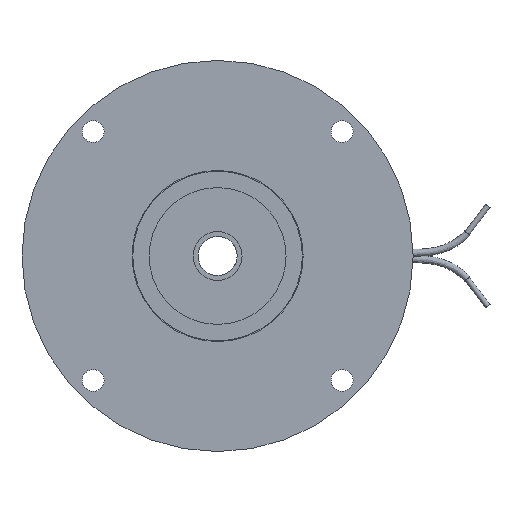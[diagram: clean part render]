
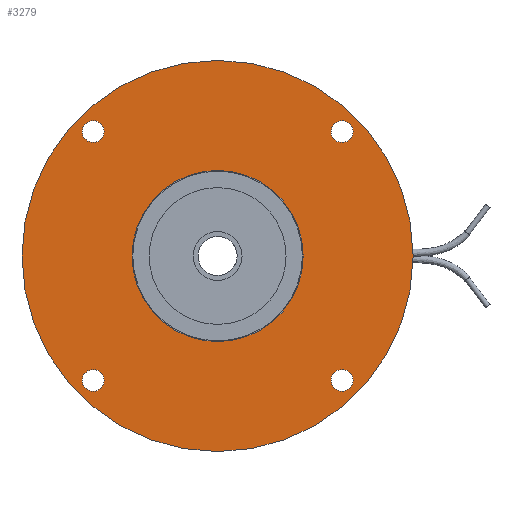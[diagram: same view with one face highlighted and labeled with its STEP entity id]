
A CAD part, left-side view. The second image highlights one B-rep face of the part: STEP entity #3279.
In plain terms, the highlighted planar face has unit normal (-1, 0, 0).
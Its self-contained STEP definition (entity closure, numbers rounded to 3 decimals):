
#456=FACE_BOUND('',#765,.T.);
#457=FACE_BOUND('',#766,.T.);
#458=FACE_BOUND('',#767,.T.);
#459=FACE_BOUND('',#768,.T.);
#460=FACE_BOUND('',#769,.T.);
#564=FACE_OUTER_BOUND('',#764,.T.);
#764=EDGE_LOOP('',(#2346,#2347));
#765=EDGE_LOOP('',(#2348));
#766=EDGE_LOOP('',(#2349));
#767=EDGE_LOOP('',(#2350));
#768=EDGE_LOOP('',(#2351));
#769=EDGE_LOOP('',(#2352,#2353));
#1033=CIRCLE('',#3586,40.);
#1034=CIRCLE('',#3587,40.);
#1035=CIRCLE('',#3588,2.25);
#1036=CIRCLE('',#3589,2.25);
#1037=CIRCLE('',#3590,2.25);
#1038=CIRCLE('',#3591,2.25);
#1039=CIRCLE('',#3592,17.5);
#1040=CIRCLE('',#3593,17.5);
#1339=VERTEX_POINT('',#5483);
#1340=VERTEX_POINT('',#5484);
#1341=VERTEX_POINT('',#5487);
#1342=VERTEX_POINT('',#5489);
#1343=VERTEX_POINT('',#5491);
#1344=VERTEX_POINT('',#5493);
#1345=VERTEX_POINT('',#5495);
#1346=VERTEX_POINT('',#5496);
#1717=EDGE_CURVE('',#1339,#1340,#1033,.T.);
#1718=EDGE_CURVE('',#1340,#1339,#1034,.T.);
#1719=EDGE_CURVE('',#1341,#1341,#1035,.T.);
#1720=EDGE_CURVE('',#1342,#1342,#1036,.T.);
#1721=EDGE_CURVE('',#1343,#1343,#1037,.T.);
#1722=EDGE_CURVE('',#1344,#1344,#1038,.T.);
#1723=EDGE_CURVE('',#1345,#1346,#1039,.T.);
#1724=EDGE_CURVE('',#1346,#1345,#1040,.T.);
#2346=ORIENTED_EDGE('',*,*,#1717,.F.);
#2347=ORIENTED_EDGE('',*,*,#1718,.F.);
#2348=ORIENTED_EDGE('',*,*,#1719,.T.);
#2349=ORIENTED_EDGE('',*,*,#1720,.T.);
#2350=ORIENTED_EDGE('',*,*,#1721,.T.);
#2351=ORIENTED_EDGE('',*,*,#1722,.T.);
#2352=ORIENTED_EDGE('',*,*,#1723,.T.);
#2353=ORIENTED_EDGE('',*,*,#1724,.T.);
#3041=PLANE('',#3585);
#3279=ADVANCED_FACE('',(#564,#456,#457,#458,#459,#460),#3041,.T.);
#3585=AXIS2_PLACEMENT_3D('',#5482,#4274,#4275);
#3586=AXIS2_PLACEMENT_3D('',#5485,#4276,#4277);
#3587=AXIS2_PLACEMENT_3D('',#5486,#4278,#4279);
#3588=AXIS2_PLACEMENT_3D('',#5488,#4280,#4281);
#3589=AXIS2_PLACEMENT_3D('',#5490,#4282,#4283);
#3590=AXIS2_PLACEMENT_3D('',#5492,#4284,#4285);
#3591=AXIS2_PLACEMENT_3D('',#5494,#4286,#4287);
#3592=AXIS2_PLACEMENT_3D('',#5497,#4288,#4289);
#3593=AXIS2_PLACEMENT_3D('',#5498,#4290,#4291);
#4274=DIRECTION('center_axis',(-1.,0.,0.));
#4275=DIRECTION('ref_axis',(0.,0.,1.));
#4276=DIRECTION('center_axis',(1.,0.,0.));
#4277=DIRECTION('ref_axis',(0.,0.,-1.));
#4278=DIRECTION('center_axis',(1.,0.,0.));
#4279=DIRECTION('ref_axis',(0.,0.,-1.));
#4280=DIRECTION('center_axis',(1.,0.,0.));
#4281=DIRECTION('ref_axis',(0.,0.,-1.));
#4282=DIRECTION('center_axis',(1.,0.,0.));
#4283=DIRECTION('ref_axis',(0.,0.,-1.));
#4284=DIRECTION('center_axis',(1.,0.,0.));
#4285=DIRECTION('ref_axis',(0.,0.,-1.));
#4286=DIRECTION('center_axis',(1.,0.,0.));
#4287=DIRECTION('ref_axis',(0.,0.,-1.));
#4288=DIRECTION('center_axis',(1.,0.,0.));
#4289=DIRECTION('ref_axis',(0.,0.,-1.));
#4290=DIRECTION('center_axis',(1.,0.,0.));
#4291=DIRECTION('ref_axis',(0.,0.,-1.));
#5482=CARTESIAN_POINT('Origin',(-9.,40.,0.));
#5483=CARTESIAN_POINT('',(-9.,40.,0.));
#5484=CARTESIAN_POINT('',(-9.,-40.,0.));
#5485=CARTESIAN_POINT('Origin',(-9.,0.,0.));
#5486=CARTESIAN_POINT('Origin',(-9.,0.,0.));
#5487=CARTESIAN_POINT('',(-9.,-25.456,-23.206));
#5488=CARTESIAN_POINT('Origin',(-9.,-25.456,-25.456));
#5489=CARTESIAN_POINT('',(-9.,25.456,27.706));
#5490=CARTESIAN_POINT('Origin',(-9.,25.456,25.456));
#5491=CARTESIAN_POINT('',(-9.,-25.456,27.706));
#5492=CARTESIAN_POINT('Origin',(-9.,-25.456,25.456));
#5493=CARTESIAN_POINT('',(-9.,25.456,-23.206));
#5494=CARTESIAN_POINT('Origin',(-9.,25.456,-25.456));
#5495=CARTESIAN_POINT('',(-9.,17.5,0.));
#5496=CARTESIAN_POINT('',(-9.,-17.5,0.));
#5497=CARTESIAN_POINT('Origin',(-9.,0.,0.));
#5498=CARTESIAN_POINT('Origin',(-9.,0.,0.));
